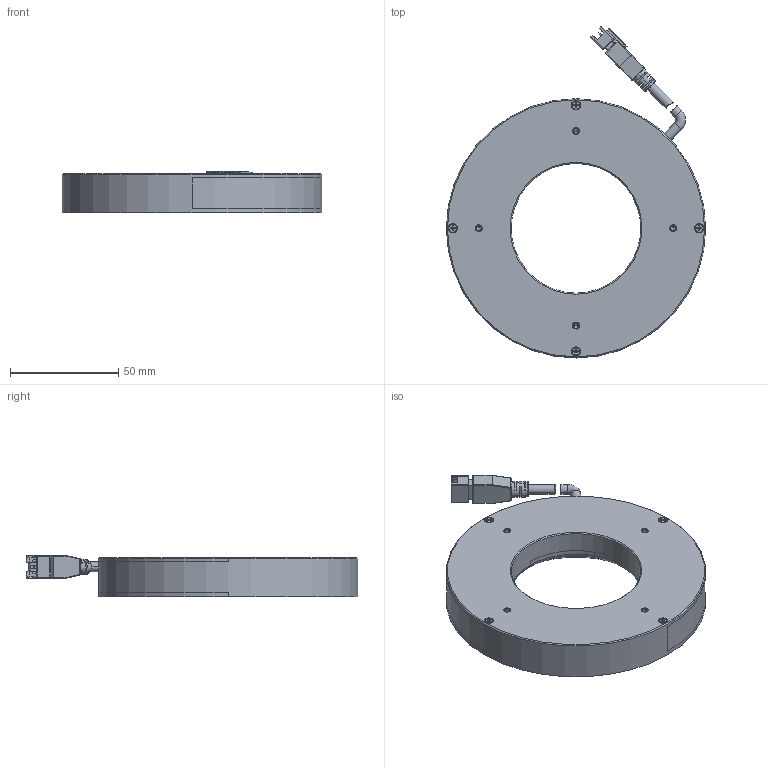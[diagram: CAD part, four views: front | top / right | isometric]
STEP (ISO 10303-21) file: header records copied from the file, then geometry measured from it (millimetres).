
FILE_DESCRIPTION((''),'2;1');
FILE_NAME('120-60','2024-01-30T11:53:07',('qiaoxuan5'),(''),'CREO PARAMETRIC BY PTC INC, 2020044','CREO PARAMETRIC BY PTC INC, 2020044','');
FILE_SCHEMA(('CONFIG_CONTROL_DESIGN'));
Length unit declared in the file: millimetre
Products named in the file (1): 120-60
Bounding box: 120 x 153.63 x 19 mm (x, y, z)
Volume: 127501.7 mm3; surface area: 50369.9 mm2
Topology: 2 solids, 39 shells, 747 faces, 1794 edges, 1103 vertices
Faces by surface type: plane 384, cylinder 218, cone 94, torus 34, sphere 8, bspline 8, extrusion 1
Entity records: 23750 total; most frequent: CARTESIAN_POINT 6423, DIRECTION 3677, ORIENTED_EDGE 3444, EDGE_CURVE 1762, AXIS2_PLACEMENT_3D 1330, VERTEX_POINT 1103, VECTOR 1017, LINE 1016
